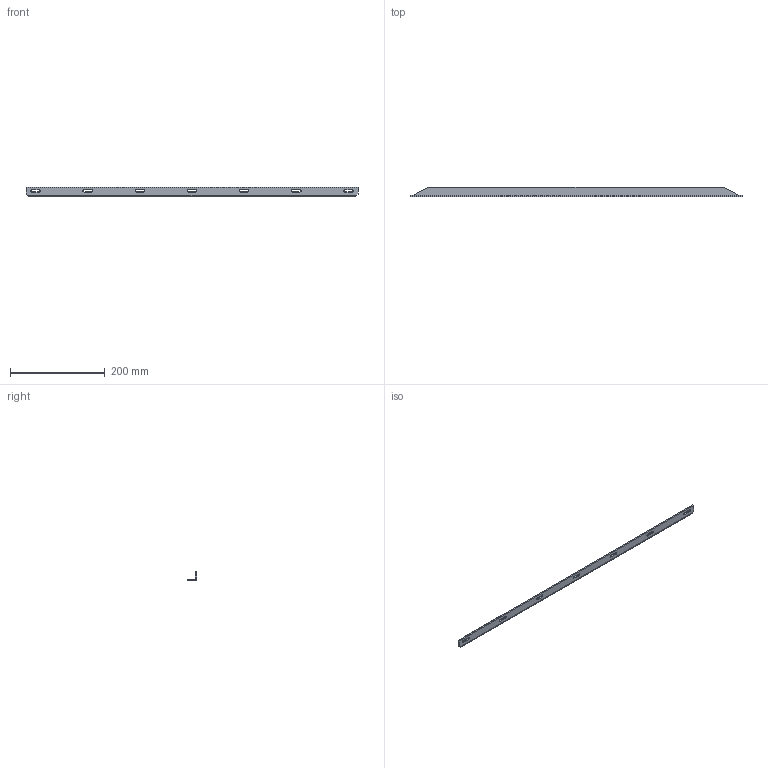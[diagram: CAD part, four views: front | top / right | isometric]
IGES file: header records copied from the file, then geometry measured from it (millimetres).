
Start section: SolidWorks IGES file using analytic representation for surfaces
Bounding box: 700 x 20 x 20 mm (x, y, z)
Surface area: 52960.4 mm2 (no closed solid volume)
Topology: 0 solids, 0 shells, 96 faces, 1078 edges, 1078 vertices
Faces by surface type: bspline 74, revolution 22
